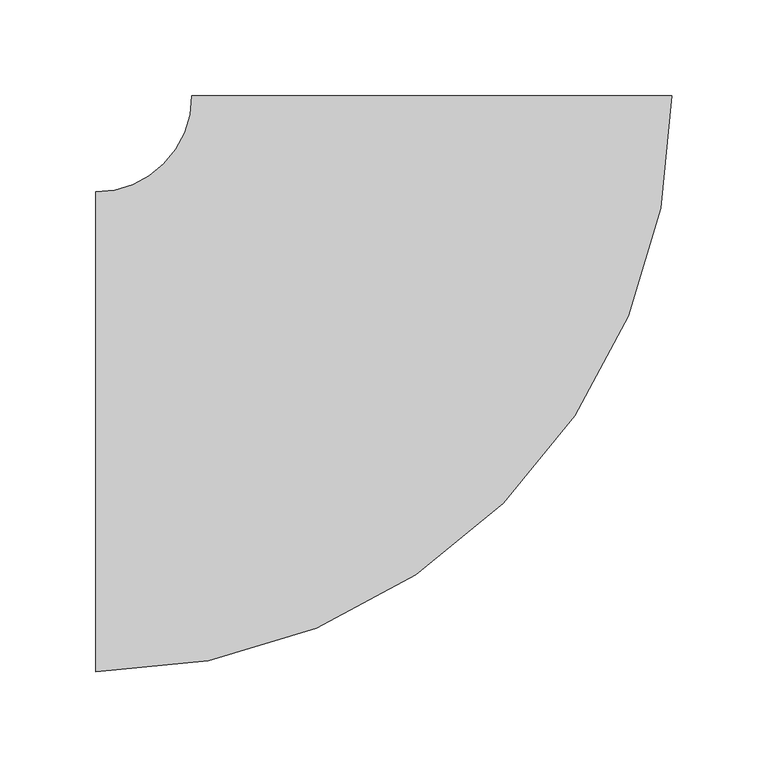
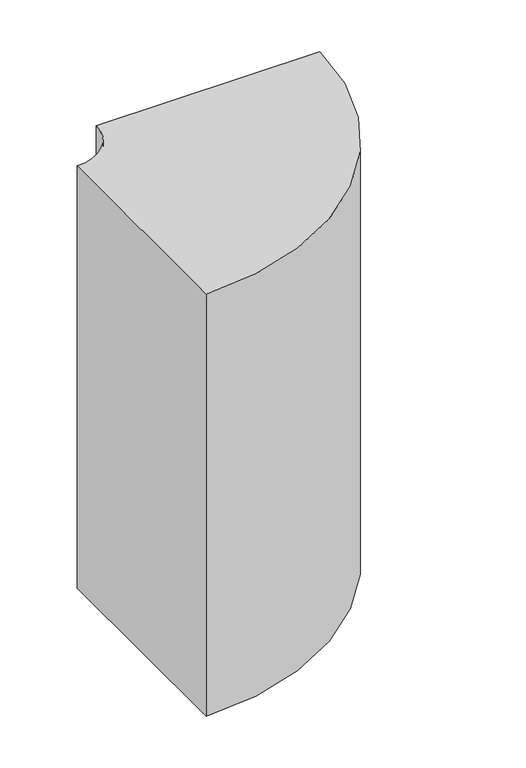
"""IFC4 building model written with IfcOpenShell, lengths in millimetres: duct fitting geometry, ADSK_ОтводВоздуховодов_Прямоугольный1 : Стандарт 2."""

import ifcopenshell
import ifcopenshell.guid

model = None  # the IFC model being written
_history = None  # IfcOwnerHistory: only IFC2X3 demands one
_inside = {}  # id of a spatial element -> (the spatial element, [elements in it])
_under = {}  # id of a project, library or spatial element -> (it, [spatial elements below it])
_declared = {}  # id of a project -> (the project, [libraries it declares])
_typed = {}  # id of a type object -> (the type object, [elements of that type])
_made_of = {}  # id of a material, layer set ... -> (it, [elements and type objects made of it])


def new_model(schema):
    """Start an empty IFC model of exactly this schema.

    Asked for "IFC4X3", IfcOpenShell would pick the latest addendum, in which some entities
    have other attributes; the version numbers below select the first issue.
    IFC2X3 requires an IfcOwnerHistory on every rooted entity: one is made here for all.
    """
    global model, _history
    if schema == "IFC4X3":
        model = ifcopenshell.file(schema_version=(4, 3, 0, 0))
    else:
        model = ifcopenshell.file(schema=schema)
    _inside.clear()
    _under.clear()
    _declared.clear()
    _typed.clear()
    _made_of.clear()
    _history = None
    if model.schema == "IFC2X3":
        org = make("IfcOrganization", Name="unknown")
        user = make(
            "IfcPersonAndOrganization",
            ThePerson=make("IfcPerson", FamilyName="unknown"),
            TheOrganization=org,
        )
        app = make(
            "IfcApplication",
            ApplicationDeveloper=org,
            Version="unknown",
            ApplicationFullName="unknown",
            ApplicationIdentifier="unknown",
        )
        _history = make(
            "IfcOwnerHistory",
            OwningUser=user,
            OwningApplication=app,
            ChangeAction="ADDED",
            CreationDate=0,
        )
    return model


def make(cls, **values):
    """One entity of the class cls with the attributes given. An attribute that is None is left unset."""
    return model.create_entity(
        cls, **{name: value for name, value in values.items() if value is not None}
    )


def rooted(cls, **values):
    """An entity with a GlobalId (a new one), such as an element, a storey or a relation."""
    return make(cls, GlobalId=ifcopenshell.guid.new(), OwnerHistory=_history, **values)


def si_unit(unit_type, name, prefix=None):
    """IfcSIUnit, for example si_unit("LENGTHUNIT", "METRE", prefix="MILLI")."""
    return make("IfcSIUnit", UnitType=unit_type, Prefix=prefix, Name=name)


def assignment(units):
    """IfcUnitAssignment: the units of a project."""
    return None if units is None else make("IfcUnitAssignment", Units=units)


def point(xyz):
    """IfcCartesianPoint."""
    return None if xyz is None else make("IfcCartesianPoint", Coordinates=xyz)


def direction(xyz):
    """IfcDirection."""
    return None if xyz is None else make("IfcDirection", DirectionRatios=xyz)


def frame(location, z_axis=None, x_axis=None):
    """IfcAxis2Placement3D, a coordinate frame: its origin and axes. An axis left out is left unset."""
    return make(
        "IfcAxis2Placement3D",
        Location=point(location),
        Axis=direction(z_axis),
        RefDirection=direction(x_axis),
    )


def frame_2d(location, x_axis=None):
    """IfcAxis2Placement2D, a coordinate frame in the plane: its origin and x axis."""
    return make(
        "IfcAxis2Placement2D", Location=point(location), RefDirection=direction(x_axis)
    )


def origin():
    """The frame at (0, 0, 0) with its axes left unset."""
    return frame((0.0, 0.0, 0.0))


def place(relative_to, where):
    """IfcLocalPlacement: puts the frame where relative to a parent placement (None: the world)."""
    return make(
        "IfcLocalPlacement", PlacementRelTo=relative_to, RelativePlacement=where
    )


def context(
    kind, dimensions, precision=None, world=None, true_north=None, identifier=None
):
    """IfcGeometricRepresentationContext, for example the 3D "Model" context."""
    return make(
        "IfcGeometricRepresentationContext",
        ContextIdentifier=identifier,
        ContextType=kind,
        CoordinateSpaceDimension=dimensions,
        Precision=precision,
        WorldCoordinateSystem=world,
        TrueNorth=true_north,
    )


def project(units=None, contexts=None):
    """IfcProject with its units and contexts."""
    return rooted(
        "IfcProject",
        Name="project",
        RepresentationContexts=contexts,
        UnitsInContext=assignment(units),
    )


def spatial(cls, under=None, at=None, **own):
    """A site, building, storey or space (cls), placed at a placement, below another one or the project."""
    s = rooted(cls, ObjectPlacement=at, **own)
    if under is not None:
        _under.setdefault(under.id(), (under, []))[1].append(s)
    return s


def polyline(points):
    """IfcPolyline through the points."""
    return make("IfcPolyline", Points=[point(p) for p in points])


def circle_curve(where, radius):
    """IfcCircle in the frame where."""
    return make("IfcCircle", Position=where, Radius=radius)


def trimmed(basis, trim1, trim2, sense, master):
    """IfcTrimmedCurve: the piece of a basis curve between two trims."""
    return make(
        "IfcTrimmedCurve",
        BasisCurve=basis,
        Trim1=trim1,
        Trim2=trim2,
        SenseAgreement=sense,
        MasterRepresentation=master,
    )


def segment(curve, same_sense, transition):
    """IfcCompositeCurveSegment."""
    return make(
        "IfcCompositeCurveSegment",
        Transition=transition,
        SameSense=same_sense,
        ParentCurve=curve,
    )


def composite_curve(segments, self_intersect=None):
    """IfcCompositeCurve: segments joined end to end."""
    return make("IfcCompositeCurve", Segments=segments, SelfIntersect=self_intersect)


def outline(outer, holes=None, kind="AREA"):
    """IfcArbitraryClosedProfileDef: a profile drawn as a closed curve; with holes, ...WithVoids."""
    if holes is None:
        return make("IfcArbitraryClosedProfileDef", ProfileType=kind, OuterCurve=outer)
    return make(
        "IfcArbitraryProfileDefWithVoids",
        ProfileType=kind,
        OuterCurve=outer,
        InnerCurves=holes,
    )


def extrude(swept, where, along, depth):
    """IfcExtrudedAreaSolid: the profile swept, set in the frame where, extruded along a direction by depth."""
    return make(
        "IfcExtrudedAreaSolid",
        SweptArea=swept,
        Position=where,
        ExtrudedDirection=direction(along),
        Depth=depth,
    )


def shape(context_of_items, identifier, shape_type, items):
    """IfcShapeRepresentation: the items that make up one representation, for example the "Body"."""
    return make(
        "IfcShapeRepresentation",
        ContextOfItems=context_of_items,
        RepresentationIdentifier=identifier,
        RepresentationType=shape_type,
        Items=items,
    )


def source(mapping_origin, context_of_items, identifier, shape_type, items):
    """IfcRepresentationMap: a shape defined once, which mapped items show again and again."""
    return make(
        "IfcRepresentationMap",
        MappingOrigin=mapping_origin,
        MappedRepresentation=shape(context_of_items, identifier, shape_type, items),
    )


def transform(
    local_origin,
    x_axis=None,
    y_axis=None,
    z_axis=None,
    scale=None,
    scale2=None,
    scale3=None,
    uniform=True,
):
    """IfcCartesianTransformationOperator3D, or its non-uniform kind. x_axis, y_axis, z_axis: its Axis1, 2, 3."""
    if uniform:
        return make(
            "IfcCartesianTransformationOperator3D",
            Axis1=direction(x_axis),
            Axis2=direction(y_axis),
            LocalOrigin=point(local_origin),
            Scale=scale,
            Axis3=direction(z_axis),
        )
    return make(
        "IfcCartesianTransformationOperator3DnonUniform",
        Axis1=direction(x_axis),
        Axis2=direction(y_axis),
        LocalOrigin=point(local_origin),
        Scale=scale,
        Axis3=direction(z_axis),
        Scale2=scale2,
        Scale3=scale3,
    )


def mapped(mapping_source, mapping_target):
    """IfcMappedItem: shows the shape of a source again, moved by a transform."""
    return make(
        "IfcMappedItem", MappingSource=mapping_source, MappingTarget=mapping_target
    )


def made_of(thing, what):
    """Note that an element or type object is made of a material, layer set ...; save() writes the relation."""
    if what is not None:
        _made_of.setdefault(what.id(), (what, []))[1].append(thing)
    return thing


def element(
    cls,
    number,
    at=None,
    inside=None,
    cuts=None,
    type_object=None,
    material=None,
    context=None,
    identifier="Body",
    shape_type=None,
    held_by="IfcProductDefinitionShape",
    body=None,
    shapes=None,
    **own,
):
    """One element of the class cls, such as IfcWall. Its Tag is "e" and its number.

    at: its placement. inside: the storey or other place that contains it. cuts: it is an
    opening in that element (IfcRelVoidsElement). A single representation is given by context,
    identifier, shape_type and body (its items); several are given by shapes. held_by: the class
    of the entity that holds the representations. save() writes the other relations.
    """
    e = rooted(cls, Tag="e%d" % number, ObjectPlacement=at, **own)
    if body is not None:
        shapes = [shape(context, identifier, shape_type, body)]
    if shapes is not None:
        e.Representation = make(held_by, Representations=shapes)
    if inside is not None:
        _inside.setdefault(inside.id(), (inside, []))[1].append(e)
    if cuts is not None:
        rooted(
            "IfcRelVoidsElement", RelatingBuildingElement=cuts, RelatedOpeningElement=e
        )
    if type_object is not None:
        _typed.setdefault(type_object.id(), (type_object, []))[1].append(e)
    return made_of(e, material)


def aggregate(whole, parts):
    """IfcRelAggregates: a whole, such as a stair, and the parts it consists of."""
    return rooted("IfcRelAggregates", RelatingObject=whole, RelatedObjects=parts)


def save(model, path):
    """Write the relations noted so far, then the file.

    IfcRelAggregates (storeys below a building ...), IfcRelContainedInSpatialStructure (elements
    in a storey), IfcRelDefinesByType, IfcRelAssociatesMaterial and IfcRelDeclares: one each for
    every whole, place, type object, material and project.
    """
    for whole, parts in _under.values():
        aggregate(whole, parts)
    for where, things in _inside.values():
        rooted(
            "IfcRelContainedInSpatialStructure",
            RelatedElements=things,
            RelatingStructure=where,
        )
    for kind, things in _typed.values():
        rooted("IfcRelDefinesByType", RelatedObjects=things, RelatingType=kind)
    for what, things in _made_of.values():
        rooted("IfcRelAssociatesMaterial", RelatedObjects=things, RelatingMaterial=what)
    for by, libraries in _declared.values():
        rooted("IfcRelDeclares", RelatingContext=by, RelatedDefinitions=libraries)
    model.write(path)


def duct_fitting_b2306584(model_context):
    return source(origin(), model_context, "Body", "SweptSolid", [
        extrude(outline(composite_curve([segment(trimmed(circle_curve(frame_2d((-175.0, 175.0)), 300.0), [point((125.0, 175.0))], [point((-175.0, -125.0))], False, "CARTESIAN"), True, "CONTINUOUS"), segment(polyline([(-175.0, -125.0), (-175.0, 125.0)]), True, "CONTINUOUS"), segment(trimmed(circle_curve(frame_2d((-175.0, 175.0)), 50.0), [point((-175.0, 125.0))], [point((-125.0, 175.0))], True, "CARTESIAN"), True, "CONTINUOUS"), segment(polyline([(-125.0, 175.0), (125.0, 175.0)]), True, "CONTINUOUS")], self_intersect=False)), frame((0.0, 0.0, -250.0), z_axis=(0.0, 0.0, 1.0), x_axis=(1.0, 0.0, 0.0)), (0.0, 0.0, 1.0), 500.0),
    ])


if __name__ == "__main__":
    model = new_model("IFC4")
    model_context = context("Model", 3, world=origin())
    ifc_project = project(units=[si_unit("LENGTHUNIT", "METRE", prefix="MILLI")], contexts=[model_context])
    site = spatial("IfcSite", under=ifc_project)
    building = spatial("IfcBuilding", under=site)
    placement = place(None, origin())
    duct_fitting_shape = duct_fitting_b2306584(model_context)
    element("IfcDuctFitting", 1, ObjectType="ADSK_ОтводВоздуховодов_Прямоугольный1 : Стандарт 2", at=placement, inside=building, context=model_context, shape_type="MappedRepresentation", body=[
        mapped(duct_fitting_shape, transform((0.0, 0.0, 0.0), x_axis=(1.0, 0.0, 0.0), y_axis=(0.0, 1.0, 0.0), z_axis=(0.0, 0.0, 1.0))),
    ])
    save(model, "model.ifc")
